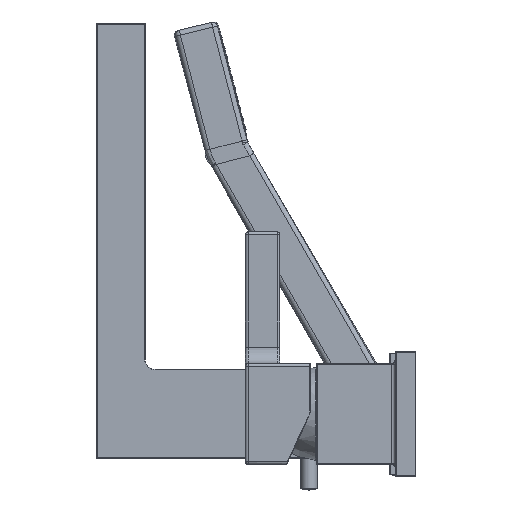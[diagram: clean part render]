
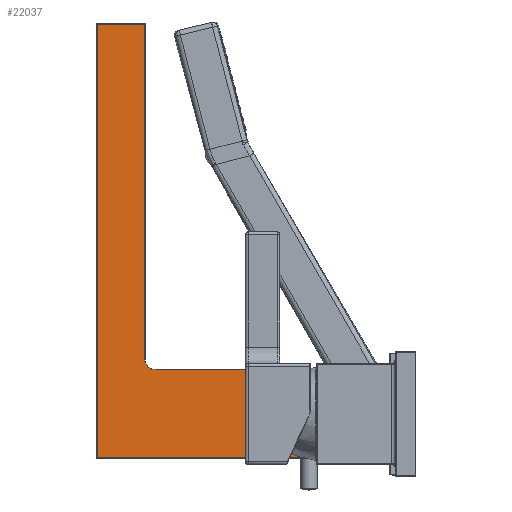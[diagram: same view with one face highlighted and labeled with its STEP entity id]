
A CAD part, left-side view. The second image highlights one B-rep face of the part: STEP entity #22037.
In plain terms, the highlighted planar face has unit normal (-1, 0, 0).
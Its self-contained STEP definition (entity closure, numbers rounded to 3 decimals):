
#1037=CIRCLE('',#23755,5.25);
#2203=FACE_OUTER_BOUND('',#3528,.T.);
#3528=EDGE_LOOP('',(#17582,#17583,#17584,#17585,#17586,#17587,#17588));
#5485=LINE('',#37206,#7663);
#5487=LINE('',#37214,#7665);
#5493=LINE('',#37268,#7671);
#5494=LINE('',#37270,#7672);
#5505=LINE('',#37297,#7683);
#5506=LINE('',#37299,#7684);
#7663=VECTOR('',#28390,214.5);
#7665=VECTOR('',#28402,144.5);
#7671=VECTOR('',#28474,165.75);
#7672=VECTOR('',#28477,115.75);
#7683=VECTOR('',#28514,43.5);
#7684=VECTOR('',#28517,23.5);
#9729=VERTEX_POINT('',#37189);
#9734=VERTEX_POINT('',#37202);
#9735=VERTEX_POINT('',#37209);
#9740=VERTEX_POINT('',#37236);
#9743=VERTEX_POINT('',#37244);
#9748=VERTEX_POINT('',#37260);
#9749=VERTEX_POINT('',#37261);
#12395=EDGE_CURVE('',#9729,#9734,#5485,.T.);
#12400=EDGE_CURVE('',#9735,#9729,#5487,.T.);
#12424=EDGE_CURVE('',#9748,#9749,#1037,.T.);
#12428=EDGE_CURVE('',#9740,#9748,#5493,.T.);
#12429=EDGE_CURVE('',#9749,#9743,#5494,.T.);
#12444=EDGE_CURVE('',#9743,#9735,#5505,.T.);
#12445=EDGE_CURVE('',#9734,#9740,#5506,.T.);
#17582=ORIENTED_EDGE('',*,*,#12424,.F.);
#17583=ORIENTED_EDGE('',*,*,#12428,.F.);
#17584=ORIENTED_EDGE('',*,*,#12445,.F.);
#17585=ORIENTED_EDGE('',*,*,#12395,.F.);
#17586=ORIENTED_EDGE('',*,*,#12400,.F.);
#17587=ORIENTED_EDGE('',*,*,#12444,.F.);
#17588=ORIENTED_EDGE('',*,*,#12429,.F.);
#19642=PLANE('',#23777);
#22037=ADVANCED_FACE('',(#2203),#19642,.T.);
#23755=AXIS2_PLACEMENT_3D('',#37262,#28464,#28465);
#23777=AXIS2_PLACEMENT_3D('',#37304,#28524,#28525);
#28390=DIRECTION('',(0.,0.,1.));
#28402=DIRECTION('',(0.,1.,0.));
#28464=DIRECTION('center_axis',(-1.,0.,0.));
#28465=DIRECTION('ref_axis',(0.,0.707,-0.707));
#28474=DIRECTION('',(0.,0.,-1.));
#28477=DIRECTION('',(0.,-1.,0.));
#28514=DIRECTION('',(0.,0.,-1.));
#28517=DIRECTION('',(0.,-1.,0.));
#28524=DIRECTION('center_axis',(-1.,0.,0.));
#28525=DIRECTION('ref_axis',(0.,-1.,0.));
#37189=CARTESIAN_POINT('',(-22.,157.25,-21.75));
#37202=CARTESIAN_POINT('',(-22.,157.25,192.75));
#37206=CARTESIAN_POINT('',(-22.,157.25,11.));
#37209=CARTESIAN_POINT('',(-22.,12.75,-21.75));
#37214=CARTESIAN_POINT('',(-22.,2.5,-21.75));
#37236=CARTESIAN_POINT('',(-22.,133.75,192.75));
#37244=CARTESIAN_POINT('',(-22.,12.75,21.75));
#37260=CARTESIAN_POINT('',(-22.,133.75,27.));
#37261=CARTESIAN_POINT('',(-22.,128.5,21.75));
#37262=CARTESIAN_POINT('Origin',(-22.,128.5,27.));
#37268=CARTESIAN_POINT('',(-22.,133.75,22.));
#37270=CARTESIAN_POINT('',(-22.,2.5,21.75));
#37297=CARTESIAN_POINT('',(-22.,12.75,11.));
#37299=CARTESIAN_POINT('',(-22.,74.,192.75));
#37304=CARTESIAN_POINT('Origin',(-22.,2.5,22.));
